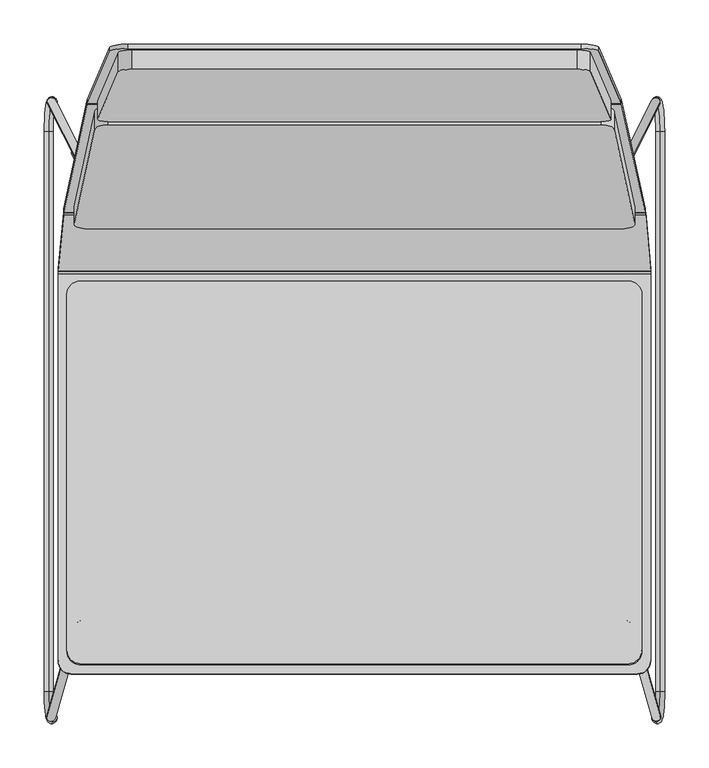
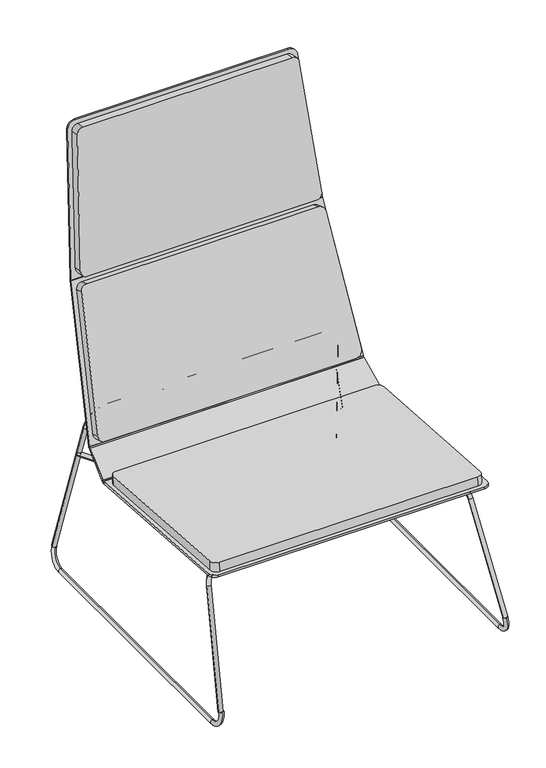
"""IFC4 building model written with IfcOpenShell, lengths in millimetres: furniture geometry, Tom Collection_A : Tom Collection_A."""

from ifc_helpers import new_model, si_unit, point, frame, frame_2d, origin, place, context, project, spatial, polyline, circle_curve, ellipse_curve, trimmed, segment, composite_curve, outline, extrude, source, transform, mapped, element, save
from ifc_brep_helpers import plane_surface, cylinder_surface, revolved_surface, advanced_brep


def furniture_4c82a0b8(model_context):
    return source(origin(), model_context, "Body", "SolidModel", [
        extrude(outline(polyline([(6.9942414, 0.0), (6.8397608, -6.9925099), (-0.1544552, -6.9925358), (0.0, 0.0), (6.9942414, 0.0)])), frame((-134.9998993, 268.6484736, 419.768617), z_axis=(0.0, -0.9781481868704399, 0.20790893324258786), x_axis=(0.7148717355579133, -0.1453814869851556, -0.6839756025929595)), (0.0, 0.0, 1.0), 14.9999995),
        extrude(outline(composite_curve([segment(polyline([(247.5043369, 435.2726366), (252.2858806, 433.8108731), (249.5216766, 424.7695414)]), True, "CONTINUOUS"), segment(trimmed(circle_curve(frame_2d((252.3905916, 423.8924287)), 3.0), [point((249.5216766, 424.7695414))], [point((251.7668647, 420.9579842))], True, "CARTESIAN"), True, "CONTINUOUS"), segment(polyline([(251.7668647, 420.9579842), (269.2842105, 417.2346088)]), True, "CONTINUOUS"), segment(trimmed(circle_curve(frame_2d((269.9079374, 420.1690534)), 3.0), [point((269.2842105, 417.2346088))], [point((272.8855759, 419.8034464))], True, "CARTESIAN"), True, "CONTINUOUS"), segment(polyline([(272.8855759, 419.8034464), (274.037768, 429.1873249), (279.0004949, 428.5779152), (277.7152991, 418.1108908)]), True, "CONTINUOUS"), segment(trimmed(circle_curve(frame_2d((270.7674766, 418.9639806)), 7.0), [point((277.7152991, 418.1108908))], [point((269.3119915, 412.1169694))], False, "CARTESIAN"), True, "CONTINUOUS"), segment(polyline([(269.3119915, 412.1169694), (249.6598051, 416.2944803)]), True, "CONTINUOUS"), segment(trimmed(circle_curve(frame_2d((251.1152902, 423.1414915)), 7.0), [point((249.6598051, 416.2944803))], [point((244.4211616, 425.1881091))], False, "CARTESIAN"), True, "CONTINUOUS"), segment(polyline([(244.4211616, 425.1881091), (247.5043369, 435.2726366)]), True, "CONTINUOUS")], self_intersect=False)), frame((-138.0311096, 0.0, 0.0), z_axis=(1.0, 0.0, 0.0), x_axis=(0.0, 1.0, 0.0)), (0.0, 0.0, 1.0), 6.06213),
        extrude(outline(polyline([(0.0, 0.0), (-0.1544812, -6.9925352), (-7.1487226, -6.9925092), (-6.9942161, 0.0), (0.0, 0.0)])), frame((129.9999138, 267.6316404, 414.9847265), z_axis=(0.0, -0.97814818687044, 0.2079089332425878), x_axis=(-0.714874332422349, 0.1453809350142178, 0.6839730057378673)), (0.0, 0.0, 1.0), 14.9999995),
        extrude(outline(composite_curve([segment(polyline([(247.5043369, 435.2726366), (252.2858806, 433.8108731), (249.5216766, 424.7695414)]), True, "CONTINUOUS"), segment(trimmed(circle_curve(frame_2d((252.3905916, 423.8924287)), 3.0), [point((249.5216766, 424.7695414))], [point((251.7668647, 420.9579842))], True, "CARTESIAN"), True, "CONTINUOUS"), segment(polyline([(251.7668647, 420.9579842), (269.2842105, 417.2346088)]), True, "CONTINUOUS"), segment(trimmed(circle_curve(frame_2d((269.9079374, 420.1690534)), 3.0), [point((269.2842105, 417.2346088))], [point((272.8855759, 419.8034464))], True, "CARTESIAN"), True, "CONTINUOUS"), segment(polyline([(272.8855759, 419.8034464), (274.037768, 429.1873249), (279.0004949, 428.5779152), (277.7152991, 418.1108908)]), True, "CONTINUOUS"), segment(trimmed(circle_curve(frame_2d((270.7674766, 418.9639806)), 7.0), [point((277.7152991, 418.1108908))], [point((269.3119915, 412.1169694))], False, "CARTESIAN"), True, "CONTINUOUS"), segment(polyline([(269.3119915, 412.1169694), (249.6598051, 416.2944803)]), True, "CONTINUOUS"), segment(trimmed(circle_curve(frame_2d((251.1152902, 423.1414915)), 7.0), [point((249.6598051, 416.2944803))], [point((244.4211616, 425.1881091))], False, "CARTESIAN"), True, "CONTINUOUS"), segment(polyline([(244.4211616, 425.1881091), (247.5043369, 435.2726366)]), True, "CONTINUOUS")], self_intersect=False)), frame((131.9689796, 0.0, 0.0), z_axis=(1.0, 0.0, 0.0), x_axis=(0.0, 1.0, 0.0)), (0.0, 0.0, 1.0), 6.06213),
        advanced_brep(
        [(340.8004455, -357.9633095, 43.4566213), (341.184584, -348.602756, 39.9591257), (346.1708796, -323.9025252, -5.439983), (345.0791204, -323.9025252, 4.5002415), (345.0791204, 308.640969, 4.5002415), (346.1708796, 308.640969, -5.439983), (340.8899225, 347.1435791, 42.6419528), (341.1192356, 337.3666511, 40.5541082)],
        [
            (0, 1, circle_curve(frame((340.9925147, -353.2830328, 41.7078735), z_axis=(-0.10219471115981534, 0.3518527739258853, 0.9304600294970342), x_axis=(0.038413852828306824, 0.936055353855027, -0.3497495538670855)), 5.0)),
            (1, 0, circle_curve(frame((340.9925147, -353.2830328, 41.7078735), z_axis=(-0.10219471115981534, 0.3518527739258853, 0.9304600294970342), x_axis=(0.038413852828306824, 0.936055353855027, -0.3497495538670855)), 5.0)),
            (2, 0, circle_curve(frame((342.1982324, -323.9025252, 30.7300832), z_axis=(-0.9940224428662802, 0.0, -0.10917592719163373), x_axis=(-0.03841385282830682, -0.936055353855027, 0.3497495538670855)), 36.3875749)),
            (1, 3, circle_curve(frame((342.1982324, -323.9025252, 30.7300832), z_axis=(0.9940224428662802, 0.0, 0.10917592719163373), x_axis=(-0.03841385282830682, -0.936055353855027, 0.3497495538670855)), 26.3875749)),
            (3, 2, circle_curve(frame((345.625, -323.9025252, -0.4698707), z_axis=(0.0, -1.0, 0.0), x_axis=(-0.10917592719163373, 0.0, 0.9940224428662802)), 5.0)),
            (2, 3, circle_curve(frame((345.625, -323.9025252, -0.4698707), z_axis=(0.0, -1.0, 0.0), x_axis=(-0.10917592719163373, 0.0, 0.9940224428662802)), 5.0)),
            (3, 4),
            (4, 5, circle_curve(frame((345.625, 308.640969, -0.4698707), z_axis=(0.0, -1.0, 0.0), x_axis=(-0.10917592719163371, 0.0, 0.99402244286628)), 5.0)),
            (5, 2),
            (5, 4, circle_curve(frame((345.625, 308.640969, -0.4698707), z_axis=(0.0, -1.0, 0.0), x_axis=(-0.10917592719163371, 0.0, 0.99402244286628)), 5.0)),
            (6, 7, circle_curve(frame((341.004579, 342.2551151, 41.5980305), z_axis=(-0.10674051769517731, -0.21003998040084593, 0.971848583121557), x_axis=(0.02293130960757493, -0.9776927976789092, -0.20878445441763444)), 5.0)),
            (7, 6, circle_curve(frame((341.004579, 342.2551151, 41.5980305), z_axis=(-0.10674051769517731, -0.21003998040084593, 0.971848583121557), x_axis=(0.02293130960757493, -0.9776927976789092, -0.20878445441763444)), 5.0)),
            (6, 5, circle_curve(frame((341.8066773, 308.0570837, 34.2951053), z_axis=(-0.9940224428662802, 0.0, -0.10917592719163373), x_axis=(0.10916428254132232, 0.01460505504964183, -0.9939164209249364)), 39.9782994)),
            (4, 7, circle_curve(frame((341.8066773, 308.0570837, 34.2951053), z_axis=(0.9940224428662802, 0.0, 0.10917592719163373), x_axis=(0.10916428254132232, 0.01460505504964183, -0.9939164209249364)), 29.9782994)),
        ],
        [
            plane_surface(frame((-2.7585614, -357.9633095, 5.7226914), z_axis=(-0.10219471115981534, 0.3518527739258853, 0.9304600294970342), x_axis=(-0.9940224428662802, 0.0, -0.10917592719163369))),
            revolved_surface(trimmed(ellipse_curve(frame((340.9925147, -353.2830328, 41.7078735), z_axis=(-0.10219471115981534, 0.3518527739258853, 0.9304600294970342), x_axis=(0.038413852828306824, 0.936055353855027, -0.3497495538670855)), 5.0, 5.0), [point((341.184584, -348.602756, 39.9591257))], [point((340.8004455, -357.9633095, 43.4566213))], True, "CARTESIAN"), (-1.3607744, -323.9025252, -7.0038467), (0.9940224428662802, 0.0, 0.10917592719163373)),
            revolved_surface(trimmed(ellipse_curve(frame((340.9925147, -353.2830328, 41.7078735), z_axis=(-0.10219471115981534, 0.3518527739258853, 0.9304600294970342), x_axis=(0.038413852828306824, 0.936055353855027, -0.3497495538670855)), 5.0, 5.0), [point((340.8004455, -357.9633095, 43.4566213))], [point((341.184584, -348.602756, 39.9591257))], True, "CARTESIAN"), (-1.3607744, -323.9025252, -7.0038467), (0.9940224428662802, 0.0, 0.10917592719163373)),
            cylinder_surface(frame((345.625, -323.9025252, -0.4698707), z_axis=(0.0, -1.0, 0.0), x_axis=(-0.10917592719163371, 0.0, 0.99402244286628)), 5.0),
            plane_surface(frame((-2.6690843, 347.1435791, 4.9080229), z_axis=(-0.10674051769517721, -0.21003998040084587, 0.9718485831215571), x_axis=(-0.9940224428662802, 0.0, -0.10917592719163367))),
            revolved_surface(trimmed(ellipse_curve(frame((345.6250582, 308.5679437, -0.4704009), z_axis=(0.0015945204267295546, -0.9998933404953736, -0.014517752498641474), x_axis=(-0.10916428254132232, -0.014605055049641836, 0.9939164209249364)), 5.0, 5.0), [point((345.0792368, 308.4949184, 4.4991812))], [point((346.1708796, 308.640969, -5.439983))], True, "CARTESIAN"), (-1.7523296, 308.0570837, -3.4388245), (0.9940224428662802, 0.0, 0.10917592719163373)),
            revolved_surface(trimmed(ellipse_curve(frame((345.6250582, 308.5679437, -0.4704009), z_axis=(0.0015945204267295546, -0.9998933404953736, -0.014517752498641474), x_axis=(-0.10916428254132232, -0.014605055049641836, 0.9939164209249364)), 5.0, 5.0), [point((346.1708796, 308.640969, -5.439983))], [point((345.0792368, 308.4949184, 4.4991812))], True, "CARTESIAN"), (-1.7523296, 308.0570837, -3.4388245), (0.9940224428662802, 0.0, 0.10917592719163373)),
        ],
        [
            (0, [[1, 2]]),
            (1, [[3, -2, 4, 5]]),
            (2, [[-4, -1, -3, 6]]),
            (3, [[-5, 7, 8, 9]]),
            (3, [[-6, -9, 10, -7]]),
            (4, [[11, 12]]),
            (5, [[13, -8, 14, -11]]),
            (6, [[-14, -10, -13, -12]]),
        ],
    ),
        extrude(outline(composite_curve([segment(trimmed(circle_curve(frame_2d((-243.75, 5.0)), 5.0), [point((-243.75, 10.0))], [point((-243.75, 0.0))], False, "CARTESIAN"), True, "CONTINUOUS"), segment(trimmed(circle_curve(frame_2d((-243.75, 5.0)), 5.0), [point((-243.75, 0.0))], [point((-243.75, 10.0))], False, "CARTESIAN"), True, "CONTINUOUS")], self_intersect=False)), frame((0.0, 133.4421426, 305.428014), z_axis=(0.0, -0.997564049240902, 0.06975648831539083), x_axis=(1.0, 0.0, 0.0)), (0.0, 0.0, 1.0), 374.4520826),
        extrude(outline(composite_curve([segment(trimmed(circle_curve(frame_2d((236.25, 5.0)), 5.0), [point((236.25, 10.0))], [point((236.25, 0.0))], False, "CARTESIAN"), True, "CONTINUOUS"), segment(trimmed(circle_curve(frame_2d((236.25, 5.0)), 5.0), [point((236.25, 0.0))], [point((236.25, 10.0))], False, "CARTESIAN"), True, "CONTINUOUS")], self_intersect=False)), frame((0.0, 133.4421426, 305.428014), z_axis=(0.0, -0.997564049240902, 0.06975648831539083), x_axis=(1.0, 0.0, 0.0)), (0.0, 0.0, 1.0), 374.4520826),
        advanced_brep(
        [(304.4321116, 288.602553, 299.3326364), (313.4912333, 284.3786808, 299.6346605), (236.6776092, 144.025734, 309.6704702), (245.7367308, 139.8018618, 309.9724943), (227.6184875, 128.3005393, 310.7948859), (227.6184875, 138.2750727, 310.0816659), (-234.5437756, 138.2750727, 310.0816659), (-234.5437756, 128.3005393, 310.7948859), (-252.6620214, 139.8018672, 309.9724939), (-243.6028985, 144.0257367, 309.67047), (-311.3573575, 288.6025759, 299.3326348), (-320.4164804, 284.3787064, 299.6346587)],
        [
            (0, 1, circle_curve(frame((308.9616724, 286.4906169, 299.4836485), z_axis=(0.42346564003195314, 0.9036051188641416, -0.06461146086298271), x_axis=(0.9059121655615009, -0.4223872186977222, 0.030202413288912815)), 5.0)),
            (1, 0, circle_curve(frame((308.9616724, 286.4906169, 299.4836485), z_axis=(0.42346564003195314, 0.9036051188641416, -0.06461146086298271), x_axis=(0.9059121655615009, -0.4223872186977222, 0.030202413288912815)), 5.0)),
            (0, 2),
            (2, 3, circle_curve(frame((241.20717, 141.9137979, 309.8214822), z_axis=(0.42346564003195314, 0.9036051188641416, -0.06461146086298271), x_axis=(0.9059121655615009, -0.4223872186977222, 0.030202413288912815)), 5.0)),
            (3, 1),
            (3, 2, circle_curve(frame((241.20717, 141.9137979, 309.8214822), z_axis=(0.42346564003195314, 0.9036051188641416, -0.06461146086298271), x_axis=(0.9059121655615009, -0.4223872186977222, 0.030202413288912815)), 5.0)),
            (4, 3, circle_curve(frame((227.6184875, 148.2496062, 309.368446), z_axis=(0.0, 0.07132199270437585, 0.9974533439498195), x_axis=(0.9059121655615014, -0.422387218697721, 0.030202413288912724)), 20.0)),
            (2, 5, circle_curve(frame((227.6184875, 148.2496062, 309.368446), z_axis=(0.0, -0.07132199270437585, -0.9974533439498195), x_axis=(0.9059121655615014, -0.422387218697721, 0.030202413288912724)), 10.0)),
            (5, 4, circle_curve(frame((227.6184875, 133.287806, 310.4382759), z_axis=(0.9999999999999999, 0.0, 0.0), x_axis=(0.0, -0.9974533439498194, 0.07132199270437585)), 5.0)),
            (4, 5, circle_curve(frame((227.6184875, 133.287806, 310.4382759), z_axis=(0.9999999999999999, 0.0, 0.0), x_axis=(0.0, -0.9974533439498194, 0.07132199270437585)), 5.0)),
            (5, 6),
            (6, 7, circle_curve(frame((-234.5437756, 133.287806, 310.4382759), z_axis=(1.0, 0.0, 0.0), x_axis=(0.0, -0.9974533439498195, 0.07132199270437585)), 5.0)),
            (7, 4),
            (7, 6, circle_curve(frame((-234.5437756, 133.287806, 310.4382759), z_axis=(1.0, 0.0, 0.0), x_axis=(0.0, -0.9974533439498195, 0.07132199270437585)), 5.0)),
            (8, 7, circle_curve(frame((-234.5437756, 148.2496062, 309.368446), z_axis=(0.0, 0.07132199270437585, 0.9974533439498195), x_axis=(0.0, -0.9974533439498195, 0.07132199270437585)), 20.0)),
            (6, 9, circle_curve(frame((-234.5437756, 148.2496062, 309.368446), z_axis=(0.0, -0.07132199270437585, -0.9974533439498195), x_axis=(0.0, -0.9974533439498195, 0.07132199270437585)), 10.0)),
            (9, 8, circle_curve(frame((-248.1324599, 141.9138019, 309.8214819), z_axis=(0.4234653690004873, -0.9036052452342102, 0.06461146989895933), x_axis=(-0.9059122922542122, -0.42238694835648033, 0.030202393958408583)), 5.0)),
            (8, 9, circle_curve(frame((-248.1324599, 141.9138019, 309.8214819), z_axis=(0.42346536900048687, -0.9036052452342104, 0.06461146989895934), x_axis=(-0.9059122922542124, -0.4223869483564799, 0.03020239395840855)), 5.0)),
            (10, 11, circle_curve(frame((-315.886919, 286.4906412, 299.4836467), z_axis=(-0.42346536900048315, 0.9036052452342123, -0.06461146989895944), x_axis=(-0.9059122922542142, -0.4223869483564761, 0.03020239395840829)), 5.0)),
            (11, 10, circle_curve(frame((-315.886919, 286.4906412, 299.4836467), z_axis=(-0.42346536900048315, 0.9036052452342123, -0.06461146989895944), x_axis=(-0.9059122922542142, -0.4223869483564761, 0.03020239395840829)), 5.0)),
            (9, 10),
            (11, 8),
        ],
        [
            plane_surface(frame((313.4912333, 262.2376044, -10.0130358), z_axis=(0.4234656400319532, 0.9036051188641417, -0.06461146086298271), x_axis=(0.0, 0.07132199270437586, 0.9974533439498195))),
            cylinder_surface(frame((308.9616724, 286.4906169, 299.4836485), z_axis=(0.42346564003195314, 0.9036051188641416, -0.06461146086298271), x_axis=(0.9059121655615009, -0.4223872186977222, 0.030202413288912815)), 5.0),
            revolved_surface(trimmed(ellipse_curve(frame((241.20717, 141.9137979, 309.8214822), z_axis=(0.4234656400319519, 0.9036051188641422, -0.06461146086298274), x_axis=(0.9059121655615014, -0.422387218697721, 0.030202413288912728)), 5.0, 5.0), [point((236.6776092, 144.025734, 309.6704702))], [point((245.7367308, 139.8018618, 309.9724943))], True, "CARTESIAN"), (227.6184875, 126.1085297, -0.2792504), (0.0, -0.07132199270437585, -0.9974533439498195)),
            revolved_surface(trimmed(ellipse_curve(frame((241.20717, 141.9137979, 309.8214822), z_axis=(0.4234656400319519, 0.9036051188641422, -0.06461146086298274), x_axis=(0.9059121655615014, -0.422387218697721, 0.030202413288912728)), 5.0, 5.0), [point((245.7367308, 139.8018618, 309.9724943))], [point((236.6776092, 144.025734, 309.6704702))], True, "CARTESIAN"), (227.6184875, 126.1085297, -0.2792504), (0.0, -0.07132199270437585, -0.9974533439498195)),
            cylinder_surface(frame((227.6184875, 133.287806, 310.4382759), z_axis=(1.0, 0.0, 0.0), x_axis=(0.0, -0.9974533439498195, 0.07132199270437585)), 5.0),
            revolved_surface(trimmed(ellipse_curve(frame((-234.5437756, 133.287806, 310.4382759), z_axis=(1.0, 0.0, 0.0), x_axis=(0.0, -0.9974533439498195, 0.07132199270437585)), 5.0, 5.0), [point((-234.5437756, 138.2750727, 310.0816659))], [point((-234.5437756, 128.3005393, 310.7948859))], True, "CARTESIAN"), (-234.5437756, 126.1085297, -0.2792504), (0.0, -0.07132199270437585, -0.9974533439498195)),
            revolved_surface(trimmed(ellipse_curve(frame((-234.5437756, 133.287806, 310.4382759), z_axis=(1.0, 0.0, 0.0), x_axis=(0.0, -0.9974533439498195, 0.07132199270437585)), 5.0, 5.0), [point((-234.5437756, 128.3005393, 310.7948859))], [point((-234.5437756, 138.2750727, 310.0816659))], True, "CARTESIAN"), (-234.5437756, 126.1085297, -0.2792504), (0.0, -0.07132199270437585, -0.9974533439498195)),
            plane_surface(frame((-320.4164804, 262.23763, -10.0130377), z_axis=(-0.42346536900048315, 0.9036052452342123, -0.06461146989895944), x_axis=(0.0, 0.07132199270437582, 0.9974533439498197))),
            cylinder_surface(frame((-248.1324599, 141.9138019, 309.8214819), z_axis=(0.42346536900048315, -0.9036052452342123, 0.06461146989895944), x_axis=(-0.9059122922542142, -0.4223869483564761, 0.03020239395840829)), 5.0),
        ],
        [
            (0, [[1, 2]]),
            (1, [[-1, 3, 4, 5]]),
            (1, [[-2, -5, 6, -3]]),
            (2, [[7, -4, 8, 9]]),
            (3, [[-8, -6, -7, 10]]),
            (4, [[-9, 11, 12, 13]]),
            (4, [[-10, -13, 14, -11]]),
            (5, [[15, -12, 16, 17]]),
            (6, [[-16, -14, -15, 18]]),
            (7, [[19, 20]]),
            (8, [[-17, 21, -20, 22]]),
            (8, [[-18, -22, -19, -21]]),
        ],
    ),
        advanced_brep(
        [(263.9560209, -241.4770677, 331.7659088), (263.9560209, -237.8979323, 341.1034561), (-265.4416364, -237.8979323, 341.1034561), (-265.4416364, -241.4770677, 331.7659088), (346.4268899, -352.7858605, 41.3742324), (336.478708, -353.1497506, 40.4248854), (318.6710217, -255.581781, 294.9683544), (308.7228397, -255.9456712, 294.0190074), (-310.2082965, -255.9451153, 294.0204577), (-320.1564431, -255.5811016, 294.970127), (-347.9217342, -352.7848363, 41.3769044), (-337.9735875, -353.14885, 40.4272351)],
        [
            (0, 1, circle_curve(frame((263.9560209, -239.6875, 336.4346825), z_axis=(-1.0, 0.0, 0.0), x_axis=(0.0, -0.3579135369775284, -0.9337547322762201)), 5.0)),
            (1, 2),
            (2, 3, circle_curve(frame((-265.4416364, -239.6875, 336.4346825), z_axis=(1.0, 0.0, 0.0), x_axis=(0.0, -0.3579135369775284, -0.9337547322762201)), 5.0)),
            (3, 0),
            (1, 0, circle_curve(frame((263.9560209, -239.6875, 336.4346825), z_axis=(-1.0, 0.0, 0.0), x_axis=(0.0, -0.3579135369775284, -0.9337547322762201)), 5.0)),
            (3, 2, circle_curve(frame((-265.4416364, -239.6875, 336.4346825), z_axis=(1.0, 0.0, 0.0), x_axis=(0.0, -0.3579135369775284, -0.9337547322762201)), 5.0)),
            (4, 5, circle_curve(frame((341.4527989, -352.9678056, 40.8995589), z_axis=(0.1016698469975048, -0.35605889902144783, -0.9289161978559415), x_axis=(-0.9948181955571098, -0.036389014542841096, -0.09493470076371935)), 5.0)),
            (5, 4, circle_curve(frame((341.4527989, -352.9678056, 40.8995589), z_axis=(0.1016698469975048, -0.35605889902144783, -0.9289161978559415), x_axis=(-0.9948181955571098, -0.036389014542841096, -0.09493470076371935)), 5.0)),
            (4, 6),
            (6, 7, circle_curve(frame((313.6969307, -255.7637261, 294.4936809), z_axis=(0.1016698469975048, -0.35605889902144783, -0.9289161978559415), x_axis=(-0.9948181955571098, -0.036389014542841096, -0.09493470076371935)), 5.0)),
            (7, 5),
            (7, 6, circle_curve(frame((313.6969307, -255.7637261, 294.4936809), z_axis=(0.1016698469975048, -0.35605889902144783, -0.9289161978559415), x_axis=(-0.9948181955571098, -0.036389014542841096, -0.09493470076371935)), 5.0)),
            (0, 7, circle_curve(frame((263.9560209, -257.5831768, 289.7469459), z_axis=(0.0, 0.9337547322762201, -0.3579135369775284), x_axis=(0.9948181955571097, 0.03638901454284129, 0.09493470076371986)), 45.0)),
            (6, 1, circle_curve(frame((263.9560209, -257.5831768, 289.7469459), z_axis=(0.0, -0.9337547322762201, 0.3579135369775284), x_axis=(0.9948181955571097, 0.03638901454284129, 0.09493470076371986)), 55.0)),
            (8, 3, circle_curve(frame((-265.4416364, -257.5831768, 289.7469459), z_axis=(0.0, 0.9337547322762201, -0.3579135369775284), x_axis=(0.0, 0.3579135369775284, 0.9337547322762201)), 45.0)),
            (2, 9, circle_curve(frame((-265.4416364, -257.5831768, 289.7469459), z_axis=(0.0, -0.9337547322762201, 0.3579135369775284), x_axis=(0.0, 0.3579135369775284, 0.9337547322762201)), 55.0)),
            (9, 8, circle_curve(frame((-315.1823698, -255.7631084, 294.4952924), z_axis=(0.10170436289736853, 0.35605763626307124, 0.9289129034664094), x_axis=(0.9948146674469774, -0.03640136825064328, -0.0949669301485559)), 5.0)),
            (8, 9, circle_curve(frame((-315.1823698, -255.7631084, 294.4952924), z_axis=(0.1017043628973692, 0.35605763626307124, 0.9289129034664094), x_axis=(0.9948146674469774, -0.03640136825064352, -0.0949669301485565)), 5.0)),
            (10, 11, circle_curve(frame((-342.9476609, -352.9668431, 40.9020697), z_axis=(-0.1017043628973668, -0.3560576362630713, -0.9289129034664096), x_axis=(0.9948146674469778, -0.03640136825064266, -0.09496693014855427)), 5.0)),
            (11, 10, circle_curve(frame((-342.9476609, -352.9668431, 40.9020697), z_axis=(-0.1017043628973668, -0.3560576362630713, -0.9289129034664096), x_axis=(0.9948146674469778, -0.03640136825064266, -0.09496693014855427)), 5.0)),
            (9, 10),
            (11, 8),
        ],
        [
            cylinder_surface(frame((263.9560209, -239.6875, 336.4346825), z_axis=(1.0000000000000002, 0.0, 0.0), x_axis=(0.0, -0.3579135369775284, -0.9337547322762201)), 5.0),
            plane_surface(frame((346.4268899, -128.9765231, -44.4131685), z_axis=(0.1016698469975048, -0.35605889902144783, -0.9289161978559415), x_axis=(0.0, -0.9337547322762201, 0.35791353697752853))),
            cylinder_surface(frame((341.4527989, -352.9678056, 40.8995589), z_axis=(0.1016698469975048, -0.35605889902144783, -0.9289161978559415), x_axis=(-0.9948181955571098, -0.036389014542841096, -0.09493470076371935)), 5.0),
            revolved_surface(trimmed(ellipse_curve(frame((313.6969307, -255.7637261, 294.4936809), z_axis=(0.10166984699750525, -0.35605889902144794, -0.9289161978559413), x_axis=(-0.9948181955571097, -0.03638901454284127, -0.09493470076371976)), 5.0, 5.0), [point((318.6710217, -255.581781, 294.9683544))], [point((308.7228397, -255.9456712, 294.0190074))], True, "CARTESIAN"), (263.9560209, -33.7738395, 203.959545), (0.0, -0.9337547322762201, 0.3579135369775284)),
            revolved_surface(trimmed(ellipse_curve(frame((313.6969307, -255.7637261, 294.4936809), z_axis=(0.10166984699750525, -0.35605889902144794, -0.9289161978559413), x_axis=(-0.9948181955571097, -0.03638901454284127, -0.09493470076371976)), 5.0, 5.0), [point((308.7228397, -255.9456712, 294.0190074))], [point((318.6710217, -255.581781, 294.9683544))], True, "CARTESIAN"), (263.9560209, -33.7738395, 203.959545), (0.0, -0.9337547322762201, 0.3579135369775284)),
            revolved_surface(trimmed(ellipse_curve(frame((-265.4416364, -239.6875, 336.4346825), z_axis=(1.0, 0.0, 0.0), x_axis=(0.0, -0.3579135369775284, -0.9337547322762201)), 5.0, 5.0), [point((-265.4416364, -237.8979323, 341.1034561))], [point((-265.4416364, -241.4770677, 331.7659088))], True, "CARTESIAN"), (-265.4416364, -33.7738395, 203.959545), (0.0, -0.9337547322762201, 0.3579135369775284)),
            revolved_surface(trimmed(ellipse_curve(frame((-265.4416364, -239.6875, 336.4346825), z_axis=(1.0, 0.0, 0.0), x_axis=(0.0, -0.3579135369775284, -0.9337547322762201)), 5.0, 5.0), [point((-265.4416364, -241.4770677, 331.7659088))], [point((-265.4416364, -237.8979323, 341.1034561))], True, "CARTESIAN"), (-265.4416364, -33.7738395, 203.959545), (0.0, -0.9337547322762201, 0.3579135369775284)),
            plane_surface(frame((-347.9217342, -128.9754989, -44.4104965), z_axis=(-0.1017043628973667, -0.3560576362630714, -0.9289129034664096), x_axis=(0.0, -0.9337547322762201, 0.3579135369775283))),
            cylinder_surface(frame((-315.1823698, -255.7631084, 294.4952924), z_axis=(0.1017043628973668, 0.3560576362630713, 0.9289129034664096), x_axis=(0.9948146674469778, -0.03640136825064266, -0.09496693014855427)), 5.0),
        ],
        [
            (0, [[1, 2, 3, 4]]),
            (0, [[5, -4, 6, -2]]),
            (1, [[7, 8]]),
            (2, [[-7, 9, 10, 11]]),
            (2, [[-8, -11, 12, -9]]),
            (3, [[13, -10, 14, -1]]),
            (4, [[-14, -12, -13, -5]]),
            (5, [[15, -3, 16, 17]]),
            (6, [[-16, -6, -15, 18]]),
            (7, [[19, 20]]),
            (8, [[-17, 21, -20, 22]]),
            (8, [[-18, -22, -19, -21]]),
        ],
    ),
        extrude(outline(composite_curve([segment(trimmed(circle_curve(frame_2d((-239.6875, 336.4346825)), 5.0), [point((-239.6875, 341.4346825))], [point((-239.6875, 331.4346825))], False, "CARTESIAN"), True, "CONTINUOUS"), segment(trimmed(circle_curve(frame_2d((-239.6875, 336.4346825)), 5.0), [point((-239.6875, 331.4346825))], [point((-239.6875, 341.4346825))], False, "CARTESIAN"), True, "CONTINUOUS")], self_intersect=False)), frame((-270.0858122, 0.0, 0.0), z_axis=(1.0, 0.0, 0.0), x_axis=(0.0, 1.0, 0.0)), (0.0, 0.0, 1.0), 533.6292723),
        advanced_brep(
        [(-340.8004455, -357.9633095, 43.4566213), (-341.184584, -348.602756, 39.9591257), (-345.0791204, -323.9025252, 4.5002415), (-346.1708796, -323.9025252, -5.439983), (-346.1708796, 308.640969, -5.439983), (-345.0791204, 308.640969, 4.5002415), (-340.8899225, 347.1435791, 42.6419528), (-341.1192356, 337.3666511, 40.5541082)],
        [
            (0, 1, circle_curve(frame((-340.9925147, -353.2830328, 41.7078735), z_axis=(0.10219471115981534, 0.3518527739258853, 0.9304600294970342), x_axis=(-0.038413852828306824, 0.936055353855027, -0.3497495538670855)), 5.0)),
            (1, 0, circle_curve(frame((-340.9925147, -353.2830328, 41.7078735), z_axis=(0.10219471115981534, 0.3518527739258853, 0.9304600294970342), x_axis=(-0.038413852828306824, 0.936055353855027, -0.3497495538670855)), 5.0)),
            (2, 1, circle_curve(frame((-342.1982324, -323.9025252, 30.7300832), z_axis=(-0.9940224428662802, 0.0, 0.10917592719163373), x_axis=(0.03841385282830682, -0.936055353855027, 0.3497495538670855)), 26.3875749)),
            (0, 3, circle_curve(frame((-342.1982324, -323.9025252, 30.7300832), z_axis=(0.9940224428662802, 0.0, -0.10917592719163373), x_axis=(0.03841385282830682, -0.936055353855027, 0.3497495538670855)), 36.3875749)),
            (3, 2, circle_curve(frame((-345.625, -323.9025252, -0.4698707), z_axis=(0.0, -1.0, 0.0), x_axis=(0.10917592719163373, 0.0, 0.9940224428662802)), 5.0)),
            (2, 3, circle_curve(frame((-345.625, -323.9025252, -0.4698707), z_axis=(0.0, -1.0, 0.0), x_axis=(0.10917592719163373, 0.0, 0.9940224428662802)), 5.0)),
            (3, 4),
            (4, 5, circle_curve(frame((-345.625, 308.640969, -0.4698707), z_axis=(0.0, -1.0, 0.0), x_axis=(0.10917592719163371, 0.0, 0.99402244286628)), 5.0)),
            (5, 2),
            (5, 4, circle_curve(frame((-345.625, 308.640969, -0.4698707), z_axis=(0.0, -1.0, 0.0), x_axis=(0.10917592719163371, 0.0, 0.99402244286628)), 5.0)),
            (6, 7, circle_curve(frame((-341.004579, 342.2551151, 41.5980305), z_axis=(0.10674051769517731, -0.21003998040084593, 0.971848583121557), x_axis=(-0.02293130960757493, -0.9776927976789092, -0.20878445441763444)), 5.0)),
            (7, 6, circle_curve(frame((-341.004579, 342.2551151, 41.5980305), z_axis=(0.10674051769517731, -0.21003998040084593, 0.971848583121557), x_axis=(-0.02293130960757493, -0.9776927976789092, -0.20878445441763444)), 5.0)),
            (7, 5, circle_curve(frame((-341.8066773, 308.0570837, 34.2951053), z_axis=(-0.9940224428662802, 0.0, 0.10917592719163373), x_axis=(-0.10916428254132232, 0.01460505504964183, -0.9939164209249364)), 29.9782994)),
            (4, 6, circle_curve(frame((-341.8066773, 308.0570837, 34.2951053), z_axis=(0.9940224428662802, 0.0, -0.10917592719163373), x_axis=(-0.10916428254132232, 0.01460505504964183, -0.9939164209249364)), 39.9782994)),
        ],
        [
            plane_surface(frame((2.7585614, -357.9633095, 5.7226914), z_axis=(0.10219471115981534, 0.3518527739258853, 0.9304600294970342), x_axis=(0.9940224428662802, 0.0, -0.10917592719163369))),
            revolved_surface(trimmed(ellipse_curve(frame((-340.9925147, -353.2830328, 41.7078735), z_axis=(0.10219471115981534, 0.3518527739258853, 0.9304600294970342), x_axis=(-0.038413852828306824, 0.936055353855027, -0.3497495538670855)), 5.0, 5.0), [point((-340.8004455, -357.9633095, 43.4566213))], [point((-341.184584, -348.602756, 39.9591257))], True, "CARTESIAN"), (1.3607744, -323.9025252, -7.0038467), (0.9940224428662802, 0.0, -0.10917592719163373)),
            revolved_surface(trimmed(ellipse_curve(frame((-340.9925147, -353.2830328, 41.7078735), z_axis=(0.10219471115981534, 0.3518527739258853, 0.9304600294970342), x_axis=(-0.038413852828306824, 0.936055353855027, -0.3497495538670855)), 5.0, 5.0), [point((-341.184584, -348.602756, 39.9591257))], [point((-340.8004455, -357.9633095, 43.4566213))], True, "CARTESIAN"), (1.3607744, -323.9025252, -7.0038467), (0.9940224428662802, 0.0, -0.10917592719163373)),
            cylinder_surface(frame((-345.625, -323.9025252, -0.4698707), z_axis=(0.0, -1.0, 0.0), x_axis=(0.10917592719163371, 0.0, 0.99402244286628)), 5.0),
            plane_surface(frame((2.6690843, 347.1435791, 4.9080229), z_axis=(0.10674051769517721, -0.21003998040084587, 0.9718485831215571), x_axis=(0.9940224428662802, 0.0, -0.10917592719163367))),
            revolved_surface(trimmed(ellipse_curve(frame((-345.6250582, 308.5679437, -0.4704009), z_axis=(-0.0015945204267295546, -0.9998933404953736, -0.014517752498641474), x_axis=(0.10916428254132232, -0.014605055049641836, 0.9939164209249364)), 5.0, 5.0), [point((-346.1708796, 308.640969, -5.439983))], [point((-345.0792368, 308.4949184, 4.4991812))], True, "CARTESIAN"), (1.7523296, 308.0570837, -3.4388245), (0.9940224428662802, 0.0, -0.10917592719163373)),
            revolved_surface(trimmed(ellipse_curve(frame((-345.6250582, 308.5679437, -0.4704009), z_axis=(-0.0015945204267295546, -0.9998933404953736, -0.014517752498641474), x_axis=(0.10916428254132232, -0.014605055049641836, 0.9939164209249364)), 5.0, 5.0), [point((-345.0792368, 308.4949184, 4.4991812))], [point((-346.1708796, 308.640969, -5.439983))], True, "CARTESIAN"), (1.7523296, 308.0570837, -3.4388245), (0.9940224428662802, 0.0, -0.10917592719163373)),
        ],
        [
            (0, [[1, 2]]),
            (1, [[3, -1, 4, 5]]),
            (2, [[-4, -2, -3, 6]]),
            (3, [[-5, 7, 8, 9]]),
            (3, [[-6, -9, 10, -7]]),
            (4, [[11, 12]]),
            (5, [[13, -8, 14, -12]]),
            (6, [[-14, -10, -13, -11]]),
        ],
    ),
        advanced_brep(
        [(345.8243589, 341.6843719, 42.1373971), (335.8791401, 341.901618, 41.1149363), (310.2846476, 271.4078578, 372.8912943), (300.3394287, 271.6251039, 371.8688335), (255.5859439, 263.2501736, 411.285143), (255.5859439, 261.1718319, 421.0667838), (-257.0859261, 261.1718319, 421.0667838), (-257.0859261, 263.2501736, 411.285143), (-301.8394114, 271.6251048, 371.8688291), (-311.7846304, 271.407859, 372.891289), (-347.3243083, 341.6843738, 42.1373884), (-337.3790894, 341.9016196, 41.1149286)],
        [
            (0, 1, circle_curve(frame((340.8517495, 341.7929949, 41.6261667), z_axis=(0.10452856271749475, 0.20669562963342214, -0.9728055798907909), x_axis=(-0.9945218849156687, 0.021724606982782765, -0.10224608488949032)), 5.0)),
            (1, 0, circle_curve(frame((340.8517495, 341.7929949, 41.6261667), z_axis=(0.10452856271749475, 0.20669562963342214, -0.9728055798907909), x_axis=(-0.9945218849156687, 0.021724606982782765, -0.10224608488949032)), 5.0)),
            (0, 2),
            (2, 3, circle_curve(frame((305.3120382, 271.5164809, 372.3800639), z_axis=(0.10452856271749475, 0.20669562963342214, -0.9728055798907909), x_axis=(-0.9945218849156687, 0.021724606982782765, -0.10224608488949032)), 5.0)),
            (3, 1),
            (3, 2, circle_curve(frame((305.3120382, 271.5164809, 372.3800639), z_axis=(0.10452856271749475, 0.20669562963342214, -0.9728055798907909), x_axis=(-0.9945218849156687, 0.021724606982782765, -0.10224608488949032)), 5.0)),
            (4, 3, circle_curve(frame((255.5859439, 272.6027112, 367.2677596), z_axis=(0.0, 0.978164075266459, 0.2078341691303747), x_axis=(0.9945218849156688, -0.02172460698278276, 0.10224608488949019)), 45.0)),
            (2, 5, circle_curve(frame((255.5859439, 272.6027112, 367.2677596), z_axis=(0.0, -0.978164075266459, -0.2078341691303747), x_axis=(0.9945218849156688, -0.02172460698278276, 0.10224608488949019)), 55.0)),
            (5, 4, circle_curve(frame((255.5859439, 262.2110028, 416.1759634), z_axis=(1.0, 0.0, 0.0), x_axis=(0.0, 0.2078341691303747, -0.978164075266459)), 5.0)),
            (4, 5, circle_curve(frame((255.5859439, 262.2110028, 416.1759634), z_axis=(1.0, 0.0, 0.0), x_axis=(0.0, 0.20783416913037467, -0.978164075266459)), 5.0)),
            (5, 6),
            (6, 7, circle_curve(frame((-257.0859261, 262.2110028, 416.1759634), z_axis=(1.0, 0.0, 0.0), x_axis=(0.0, 0.2078341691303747, -0.9781640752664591)), 5.0)),
            (7, 4),
            (7, 6, circle_curve(frame((-257.0859261, 262.2110028, 416.1759634), z_axis=(1.0, 0.0, 0.0), x_axis=(0.0, 0.2078341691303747, -0.9781640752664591)), 5.0)),
            (8, 7, circle_curve(frame((-257.0859261, 272.6027112, 367.2677596), z_axis=(0.0, 0.978164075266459, 0.2078341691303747), x_axis=(0.0, -0.2078341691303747, 0.978164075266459)), 45.0)),
            (6, 9, circle_curve(frame((-257.0859261, 272.6027112, 367.2677596), z_axis=(0.0, -0.978164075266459, -0.2078341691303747), x_axis=(0.0, -0.2078341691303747, 0.978164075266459)), 55.0)),
            (9, 8, circle_curve(frame((-306.8120209, 271.5164819, 372.3800591), z_axis=(0.10452846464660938, -0.20669563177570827, 0.9728055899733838), x_axis=(0.9945218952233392, 0.021724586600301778, -0.1022459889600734)), 5.0)),
            (8, 9, circle_curve(frame((-306.8120209, 271.5164819, 372.3800591), z_axis=(0.10452846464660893, -0.20669563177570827, 0.972805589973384), x_axis=(0.9945218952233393, 0.021724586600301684, -0.10224598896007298)), 5.0)),
            (10, 11, circle_curve(frame((-342.3516989, 341.7929967, 41.6261585), z_axis=(-0.10452846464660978, 0.20669563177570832, -0.972805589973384), x_axis=(0.9945218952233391, 0.02172458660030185, -0.10224598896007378)), 5.0)),
            (11, 10, circle_curve(frame((-342.3516989, 341.7929967, 41.6261585), z_axis=(-0.10452846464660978, 0.20669563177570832, -0.972805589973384), x_axis=(0.9945218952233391, 0.02172458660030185, -0.10224598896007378)), 5.0)),
            (9, 10),
            (11, 8),
        ],
        [
            plane_surface(frame((345.8243589, 85.1989889, -12.3590088), z_axis=(0.10452856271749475, 0.20669562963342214, -0.9728055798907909), x_axis=(0.0, -0.978164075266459, -0.2078341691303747))),
            cylinder_surface(frame((340.8517495, 341.7929949, 41.6261667), z_axis=(0.10452856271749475, 0.20669562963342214, -0.9728055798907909), x_axis=(-0.9945218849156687, 0.021724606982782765, -0.10224608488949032)), 5.0),
            revolved_surface(trimmed(ellipse_curve(frame((305.3120382, 271.5164809, 372.3800639), z_axis=(0.10452856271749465, 0.2066956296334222, -0.972805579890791), x_axis=(-0.9945218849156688, 0.021724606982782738, -0.10224608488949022)), 5.0, 5.0), [point((310.2846476, 271.4078578, 372.8912943))], [point((300.3394287, 271.6251039, 371.8688335))], True, "CARTESIAN"), (255.5859439, 16.1173282, 312.7713537), (0.0, -0.978164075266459, -0.2078341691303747)),
            revolved_surface(trimmed(ellipse_curve(frame((305.3120382, 271.5164809, 372.3800639), z_axis=(0.10452856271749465, 0.2066956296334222, -0.972805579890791), x_axis=(-0.9945218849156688, 0.021724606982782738, -0.10224608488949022)), 5.0, 5.0), [point((300.3394287, 271.6251039, 371.8688335))], [point((310.2846476, 271.4078578, 372.8912943))], True, "CARTESIAN"), (255.5859439, 16.1173282, 312.7713537), (0.0, -0.978164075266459, -0.2078341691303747)),
            cylinder_surface(frame((255.5859439, 262.2110028, 416.1759634), z_axis=(1.0000000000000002, 0.0, 0.0), x_axis=(0.0, 0.2078341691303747, -0.9781640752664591)), 5.0),
            revolved_surface(trimmed(ellipse_curve(frame((-257.0859261, 262.2110028, 416.1759634), z_axis=(1.0, 0.0, 0.0), x_axis=(0.0, 0.20783416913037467, -0.978164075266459)), 5.0, 5.0), [point((-257.0859261, 261.1718319, 421.0667838))], [point((-257.0859261, 263.2501736, 411.285143))], True, "CARTESIAN"), (-257.0859261, 16.1173282, 312.7713537), (0.0, -0.978164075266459, -0.2078341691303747)),
            revolved_surface(trimmed(ellipse_curve(frame((-257.0859261, 262.2110028, 416.1759634), z_axis=(1.0, 0.0, 0.0), x_axis=(0.0, 0.20783416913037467, -0.978164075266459)), 5.0, 5.0), [point((-257.0859261, 263.2501736, 411.285143))], [point((-257.0859261, 261.1718319, 421.0667838))], True, "CARTESIAN"), (-257.0859261, 16.1173282, 312.7713537), (0.0, -0.978164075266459, -0.2078341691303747)),
            plane_surface(frame((-347.3243083, 85.1989907, -12.3590175), z_axis=(-0.1045284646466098, 0.20669563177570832, -0.9728055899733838), x_axis=(0.0, -0.978164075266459, -0.20783416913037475))),
            cylinder_surface(frame((-306.8120209, 271.5164819, 372.3800591), z_axis=(0.10452846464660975, -0.20669563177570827, 0.9728055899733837), x_axis=(0.9945218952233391, 0.02172458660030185, -0.10224598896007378)), 5.0),
        ],
        [
            (0, [[1, 2]]),
            (1, [[-1, 3, 4, 5]]),
            (1, [[-2, -5, 6, -3]]),
            (2, [[7, -4, 8, 9]]),
            (3, [[-8, -6, -7, 10]]),
            (4, [[-9, 11, 12, 13]]),
            (4, [[-10, -13, 14, -11]]),
            (5, [[15, -12, 16, 17]]),
            (6, [[-16, -14, -15, 18]]),
            (7, [[19, 20]]),
            (8, [[-17, 21, -20, 22]]),
            (8, [[-18, -22, -19, -21]]),
        ],
    ),
        extrude(outline(composite_curve([segment(trimmed(circle_curve(frame_2d((0.0, -15.0)), 15.0), [point((0.0, -29.9999999))], [point((-15.0, -15.0))], False, "CARTESIAN"), True, "CONTINUOUS"), segment(polyline([(-15.0, -15.0), (-15.0, 388.0000395)]), True, "CONTINUOUS"), segment(trimmed(circle_curve(frame_2d((0.0, 388.0000395)), 15.0), [point((-15.0, 388.0000395))], [point((0.0, 403.0000394))], False, "CARTESIAN"), True, "CONTINUOUS"), segment(polyline([(0.0, 403.0000394), (619.9999755, 403.0000394)]), True, "CONTINUOUS"), segment(trimmed(circle_curve(frame_2d((619.9999755, 388.0000395)), 15.0), [point((619.9999755, 403.0000394))], [point((634.9999755, 388.0000395))], False, "CARTESIAN"), True, "CONTINUOUS"), segment(polyline([(634.9999755, 388.0000395), (634.9999755, -15.0)]), True, "CONTINUOUS"), segment(trimmed(circle_curve(frame_2d((619.9999755, -15.0)), 15.0), [point((634.9999755, -15.0))], [point((619.9999755, -29.9999999))], False, "CARTESIAN"), True, "CONTINUOUS"), segment(polyline([(619.9999755, -29.9999999), (0.0, -29.9999999)]), True, "CONTINUOUS")], self_intersect=False)), frame((309.9999923, 108.1349043, 322.497733), z_axis=(0.0, 0.06975645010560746, 0.9975640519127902), x_axis=(-1.0, 0.0, 0.0)), (0.0, 0.0, 1.0), 22.0003535),
        extrude(outline(composite_curve([segment(trimmed(circle_curve(frame_2d((0.0, -15.0)), 15.0), [point((-14.9587527, -13.8883726))], [point((0.0, 0.0))], False, "CARTESIAN"), True, "CONTINUOUS"), segment(polyline([(0.0, 0.0), (557.2966517, 0.0)]), True, "CONTINUOUS"), segment(trimmed(circle_curve(frame_2d((557.2966517, -15.0)), 15.0), [point((557.2966517, 0.0))], [point((572.2554044, -13.8883725))], False, "CARTESIAN"), True, "CONTINUOUS"), segment(polyline([(572.2554044, -13.8883725), (595.4410111, -325.8883609)]), True, "CONTINUOUS"), segment(trimmed(circle_curve(frame_2d((580.4822584, -326.9999884)), 15.0), [point((595.4410111, -325.8883609))], [point((580.4822584, -341.9999884))], False, "CARTESIAN"), True, "CONTINUOUS"), segment(polyline([(580.4822584, -341.9999884), (-23.1856038, -341.9999884)]), True, "CONTINUOUS"), segment(trimmed(circle_curve(frame_2d((-23.1856038, -326.9999884)), 15.0), [point((-23.1856038, -341.9999884))], [point((-38.1443566, -325.8883611))], False, "CARTESIAN"), True, "CONTINUOUS"), segment(polyline([(-38.1443566, -325.8883611), (-14.9587527, -13.8883726)]), True, "CONTINUOUS")], self_intersect=False)), frame((-278.6512883, 336.4263009, 693.2744252), z_axis=(0.0, -0.9396926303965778, 0.3420201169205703), x_axis=(1.0, 0.0, 0.0)), (0.0, 0.0, 1.0), 22.0000076),
        extrude(outline(composite_curve([segment(trimmed(circle_curve(frame_2d((0.0, -15.0)), 15.0), [point((0.0, 0.0))], [point((14.9587527, -13.8883717))], False, "CARTESIAN"), True, "CONTINUOUS"), segment(polyline([(14.9587527, -13.8883717), (37.9957522, -323.8883847)]), True, "CONTINUOUS"), segment(trimmed(circle_curve(frame_2d((23.0369995, -325.000013)), 15.0), [point((37.9957522, -323.8883847))], [point((23.0369995, -340.000013))], False, "CARTESIAN"), True, "CONTINUOUS"), segment(polyline([(23.0369995, -340.000013), (-526.9004245, -340.000013)]), True, "CONTINUOUS"), segment(trimmed(circle_curve(frame_2d((-526.9004245, -325.000013)), 15.0), [point((-526.9004245, -340.000013))], [point((-541.8591772, -323.8883855))], False, "CARTESIAN"), True, "CONTINUOUS"), segment(polyline([(-541.8591772, -323.8883855), (-518.8221938, -13.8883725)]), True, "CONTINUOUS"), segment(trimmed(circle_curve(frame_2d((-503.863441, -15.0)), 15.0), [point((-518.8221938, -13.8883725))], [point((-503.863441, 0.0))], False, "CARTESIAN"), True, "CONTINUOUS"), segment(polyline([(-503.863441, 0.0), (0.0, 0.0)]), True, "CONTINUOUS")], self_intersect=False)), frame((251.8927387, 400.3977971, 1046.5122859), z_axis=(0.0, -0.9848077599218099, 0.1736481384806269), x_axis=(1.0, 0.0, 0.0)), (0.0, 0.0, 1.0), 22.0000931),
        extrude(outline(composite_curve([segment(trimmed(circle_curve(frame_2d((148.3404302, 324.698835)), 10.0), [point((153.7868248, 316.3121321))], [point((147.6428517, 314.7231955))], False, "CARTESIAN"), True, "CONTINUOUS"), segment(polyline([(147.6428517, 314.7231955), (147.991634, 319.7110158)]), True, "CONTINUOUS"), segment(trimmed(circle_curve(frame_2d((148.3404302, 324.698835)), 5.0), [point((147.991634, 319.7110158))], [point((151.0636299, 320.5054852))], True, "CARTESIAN"), True, "CONTINUOUS"), segment(polyline([(151.0636299, 320.5054852), (153.7868248, 316.3121321)]), True, "CONTINUOUS")], self_intersect=False)), frame((-334.9999837, 0.0, 0.0), z_axis=(1.0, 0.0, 0.0), x_axis=(0.0, 1.0, 0.0)), (0.0, 0.0, 1.0), 670.0000196),
        extrude(outline(composite_curve([segment(trimmed(circle_curve(frame_2d((212.0023074, 366.0413345)), 10.0), [point((221.3992386, 362.621147))], [point((217.4487066, 357.6546346))], False, "CARTESIAN"), True, "CONTINUOUS"), segment(polyline([(217.4487066, 357.6546346), (214.7255117, 361.8479876)]), True, "CONTINUOUS"), segment(trimmed(circle_curve(frame_2d((212.0023074, 366.0413345)), 5.0), [point((214.7255117, 361.8479876))], [point((216.7007755, 364.3312476))], True, "CARTESIAN"), True, "CONTINUOUS"), segment(polyline([(216.7007755, 364.3312476), (221.3992386, 362.621147)]), True, "CONTINUOUS")], self_intersect=False)), frame((-328.8617421, 0.0, 0.0), z_axis=(1.0, 0.0, 0.0), x_axis=(0.0, 1.0, 0.0)), (0.0, 0.0, 1.0), 657.474886),
        extrude(outline(composite_curve([segment(trimmed(circle_curve(frame_2d((334.8488245, 703.559396)), 5.0), [point((339.5472682, 701.8492418))], [point((339.772857, 702.6911195))], True, "CARTESIAN"), True, "CONTINUOUS"), segment(polyline([(339.772857, 702.6911195), (344.6968958, 701.8228788)]), True, "CONTINUOUS"), segment(trimmed(circle_curve(frame_2d((334.8488245, 703.559396)), 10.0), [point((344.6968958, 701.8228788))], [point((344.2457313, 700.1391413))], False, "CARTESIAN"), True, "CONTINUOUS"), segment(polyline([(344.2457313, 700.1391413), (339.5472682, 701.8492418)]), True, "CONTINUOUS")], self_intersect=False)), frame((-301.7914428, 0.0, 0.0), z_axis=(1.0, 0.0, 0.0), x_axis=(0.0, 1.0, 0.0)), (0.0, 0.0, 1.0), 603.5828953),
        extrude(outline(composite_curve([segment(polyline([(-437.9540219, 0.0), (0.0, 0.0), (0.0, -670.0000196), (-437.9540219, -670.0000196)]), True, "CONTINUOUS"), segment(trimmed(circle_curve(frame_2d((-437.9540219, -655.0000196)), 15.0), [point((-437.9540219, -670.0000196))], [point((-452.9540218, -655.0000196))], False, "CARTESIAN"), True, "CONTINUOUS"), segment(polyline([(-452.9540218, -655.0000196), (-452.9540218, -15.0)]), True, "CONTINUOUS"), segment(trimmed(circle_curve(frame_2d((-437.9540219, -15.0)), 15.0), [point((-452.9540218, -15.0))], [point((-437.9540219, 0.0))], False, "CARTESIAN"), True, "CONTINUOUS")], self_intersect=False)), frame((-334.9999837, 147.6428517, 314.7231955), z_axis=(0.0, 0.06975645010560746, 0.9975640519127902), x_axis=(0.0, 0.9975640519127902, -0.06975645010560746)), (0.0, 0.0, 1.0), 5.0),
        extrude(outline(polyline([(-76.1362268, 0.0), (0.0, 0.0), (50.8980965, -656.0005462), (-24.3461723, -667.4965543), (-76.1362268, 0.0)])), frame((-328.8617421, 217.4487066, 357.6546346), z_axis=(0.0, -0.5446389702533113, 0.8386706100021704), x_axis=(0.07735600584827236, 0.8361575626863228, 0.5430069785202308)), (0.0, 0.0, 1.0), 5.0),
        extrude(outline(polyline([(-360.1695433, 0.0), (0.0, 0.0), (44.7498941, -602.1825486), (-311.4634983, -655.418988), (-360.1695433, 0.0)])), frame((-301.9214733, 344.2457313, 700.1391413), z_axis=(0.0, -0.9396926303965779, 0.3420201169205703), x_axis=(0.07410849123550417, 0.34107962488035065, 0.937108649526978)), (0.0, 0.0, 1.0), 5.0),
        extrude(outline(composite_curve([segment(trimmed(circle_curve(frame_2d((0.0, -20.0)), 20.0), [point((0.0, 0.0))], [point((19.9450038, -18.5178317))], False, "CARTESIAN"), True, "CONTINUOUS"), segment(polyline([(19.9450038, -18.5178317), (45.2564675, -359.1250803), (-558.3264278, -359.1250803), (-533.0149353, -18.5178301)]), True, "CONTINUOUS"), segment(trimmed(circle_curve(frame_2d((-513.0699316, -20.0)), 20.0), [point((-533.0149353, -18.5178301))], [point((-513.0699316, 0.0))], False, "CARTESIAN"), True, "CONTINUOUS"), segment(polyline([(-513.0699316, 0.0), (0.0, 0.0)]), True, "CONTINUOUS")], self_intersect=False)), frame((256.534985, 407.0582975, 1055.4920447), z_axis=(0.0, -0.9848077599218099, 0.1736481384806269), x_axis=(1.0, 0.0, 0.0)), (0.0, 0.0, 1.0), 5.0),
    ])


if __name__ == "__main__":
    model = new_model("IFC4")
    model_context = context("Model", 3, world=origin())
    ifc_project = project(units=[si_unit("LENGTHUNIT", "METRE", prefix="MILLI")], contexts=[model_context])
    site = spatial("IfcSite", under=ifc_project)
    building = spatial("IfcBuilding", under=site)
    placement = place(None, origin())
    furniture_shape = furniture_4c82a0b8(model_context)
    element("IfcFurniture", 1, ObjectType="Tom Collection_A : Tom Collection_A", at=placement, inside=building, context=model_context, shape_type="MappedRepresentation", body=[
        mapped(furniture_shape, transform((0.0, 0.0, 0.0), x_axis=(1.0, 0.0, 0.0), y_axis=(0.0, 1.0, 0.0), z_axis=(0.0, 0.0, 1.0))),
    ])
    save(model, "model.ifc")
